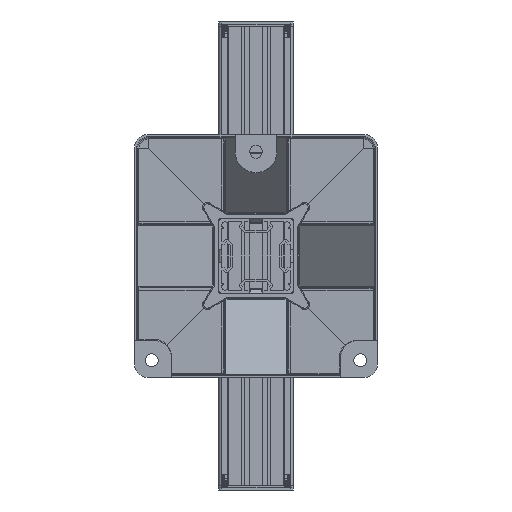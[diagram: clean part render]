
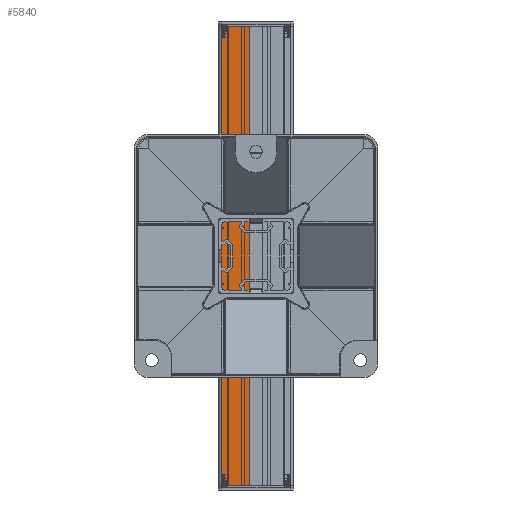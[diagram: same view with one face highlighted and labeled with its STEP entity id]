
A CAD part, front view. The second image highlights one B-rep face of the part: STEP entity #5840.
In plain terms, the highlighted planar face has unit normal (0, -1, 0).
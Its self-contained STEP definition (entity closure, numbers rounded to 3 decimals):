
#5832 = EDGE_CURVE ( 'NONE', #37700, #7014, #17247, .T. ) ;
#5836 = ORIENTED_EDGE ( 'NONE', *, *, #5841, .F. ) ;
#5837 = EDGE_LOOP ( 'NONE', ( #5852, #5836, #5899, #5898 ) ) ;
#5840 = ADVANCED_FACE ( 'NONE', ( #17211 ), #17221, .F. ) ;
#5841 = EDGE_CURVE ( 'NONE', #37697, #7036, #17230, .T. ) ;
#5852 = ORIENTED_EDGE ( 'NONE', *, *, #7004, .T. ) ;
#5898 = ORIENTED_EDGE ( 'NONE', *, *, #5832, .T. ) ;
#5899 = ORIENTED_EDGE ( 'NONE', *, *, #37741, .F. ) ;
#7004 = EDGE_CURVE ( 'NONE', #7014, #7036, #18852, .T. ) ;
#7014 = VERTEX_POINT ( 'NONE', #18834 ) ;
#7036 = VERTEX_POINT ( 'NONE', #18937 ) ;
#17211 = FACE_OUTER_BOUND ( 'NONE', #5837, .T. ) ;
#17221 = PLANE ( 'NONE',  #17226 ) ;
#17223 = VECTOR ( 'NONE', #17256, 1000. ) ;
#17226 = AXIS2_PLACEMENT_3D ( 'NONE', #17235, #17240, #17326 ) ;
#17230 = LINE ( 'NONE', #17331, #17330 ) ;
#17235 = CARTESIAN_POINT ( 'NONE',  ( -29.5, -32., 198. ) ) ;
#17240 = DIRECTION ( 'NONE',  ( 0., 1., 0. ) ) ;
#17247 = LINE ( 'NONE', #17257, #17223 ) ;
#17256 = DIRECTION ( 'NONE',  ( 0., 0., -1. ) ) ;
#17257 = CARTESIAN_POINT ( 'NONE',  ( -29.5, -32., 198. ) ) ;
#17315 = DIRECTION ( 'NONE',  ( 0., 0., -1. ) ) ;
#17326 = DIRECTION ( 'NONE',  ( 0., 0., 1. ) ) ;
#17330 = VECTOR ( 'NONE', #17315, 1000. ) ;
#17331 = CARTESIAN_POINT ( 'NONE',  ( -6., -32., 198. ) ) ;
#18834 = CARTESIAN_POINT ( 'NONE',  ( -29.5, -32., -198. ) ) ;
#18845 = DIRECTION ( 'NONE',  ( 1., 0., 0. ) ) ;
#18846 = VECTOR ( 'NONE', #18845, 1000. ) ;
#18847 = CARTESIAN_POINT ( 'NONE',  ( -29.5, -32., -198. ) ) ;
#18852 = LINE ( 'NONE', #18847, #18846 ) ;
#18937 = CARTESIAN_POINT ( 'NONE',  ( -6., -32., -198. ) ) ;
#19960 = CARTESIAN_POINT ( 'NONE',  ( -6., -32., 198. ) ) ;
#20057 = CARTESIAN_POINT ( 'NONE',  ( -29.5, -32., 198. ) ) ;
#20322 = DIRECTION ( 'NONE',  ( 1., 0., 0. ) ) ;
#20324 = VECTOR ( 'NONE', #20322, 1000. ) ;
#20325 = CARTESIAN_POINT ( 'NONE',  ( -29.5, -32., 198. ) ) ;
#20326 = LINE ( 'NONE', #20325, #20324 ) ;
#37697 = VERTEX_POINT ( 'NONE', #19960 ) ;
#37700 = VERTEX_POINT ( 'NONE', #20057 ) ;
#37741 = EDGE_CURVE ( 'NONE', #37700, #37697, #20326, .T. ) ;
